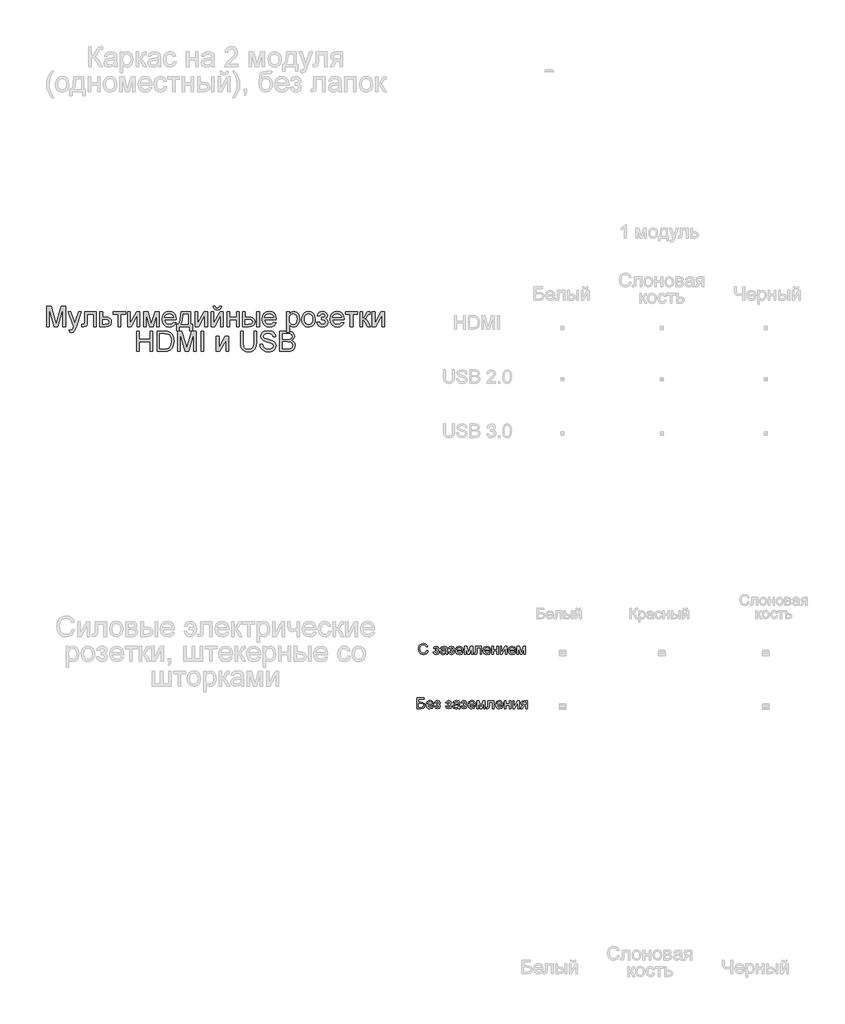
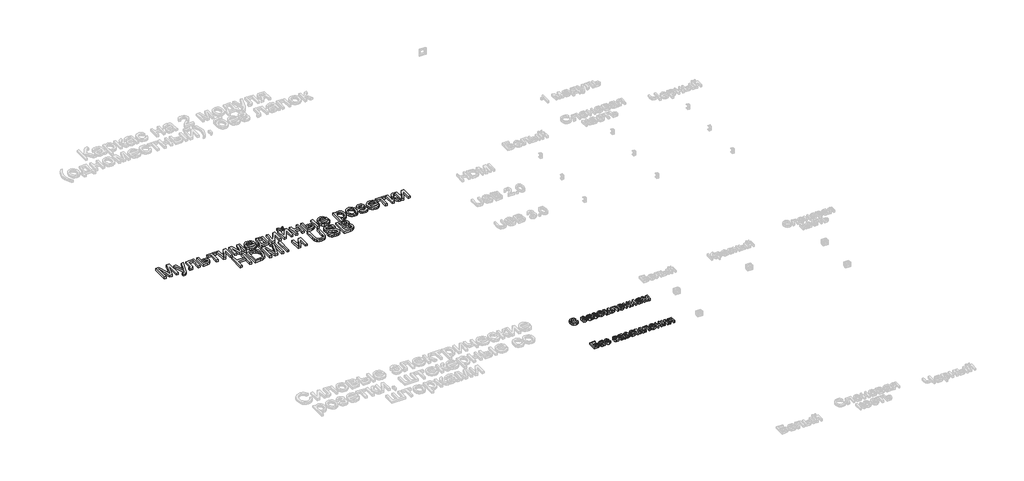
# One storey, part 12 of 47: 3 proxies.
"""IFC4 building model written with IfcOpenShell, lengths in millimetres."""

from ifc_helpers import new_model, si_unit, origin, origin_with_axes, place, context, project, spatial, polyline, outline, extrude, element, save

model = new_model("IFC4")

# Units and contexts
model_context = context("Model", 3, world=origin())
ifc_project = project(units=[si_unit("LENGTHUNIT", "METRE", prefix="MILLI")], contexts=[model_context])

# Site, building, storey
site = spatial("IfcSite", under=ifc_project)
building = spatial("IfcBuilding", under=site)
storey = spatial("IfcBuildingStorey", under=building, Name="Этаж 01", Elevation=0.0)

# Proxies
placement = place(None, origin())
element("IfcBuildingElementProxy", 1, Name="150 мм Arial", ObjectType="150 мм Arial", at=placement, inside=storey, context=model_context, shape_type="SweptSolid", body=[
    extrude(outline(polyline([(-3703.6903776, -8357.1798997), (-3703.6903776, -8206.4954345), (-3671.2799738, -8206.4954345), (-3640.4514626, -8312.7029665), (-3634.2342569, -8334.8862508), (-3627.5020164, -8310.8635565), (-3597.18854, -8206.4954345), (-3564.7781362, -8206.4954345), (-3564.7781362, -8357.1798997), (-3583.6136944, -8357.1798997), (-3583.6136944, -8225.3309926), (-3621.4687517, -8357.1798997), (-3646.9997621, -8357.1798997), (-3684.8548195, -8225.3309926), (-3684.8548195, -8357.1798997), (-3703.6903776, -8357.1798997)])), origin_with_axes(), (0.0, 0.0, 1.0), 20.0),
    extrude(outline(polyline([(-3534.1703542, -8399.5599056), (-3536.524799, -8381.4233232), (-3526.9598671, -8383.0787922), (-3518.0203346, -8381.0002589), (-3512.5388929, -8375.2061175), (-3507.388545, -8361.3369663), (-3505.917017, -8356.7752295), (-3545.9425781, -8246.5209956), (-3526.0769503, -8246.5209956), (-3504.8501592, -8307.9572888), (-3497.4557311, -8332.531806), (-3490.061303, -8310.8267683), (-3468.2459007, -8246.5209956), (-3448.5274258, -8246.5209956), (-3487.0446706, -8359.8286501), (-3497.0510609, -8384.4031674), (-3507.9771562, -8397.6837074), (-3522.6556478, -8401.9143503), (-3534.1703542, -8399.5599056)])), origin_with_axes(), (0.0, 0.0, 1.0), 20.0),
    extrude(outline(polyline([(-3423.5114501, -8246.5209956), (-3338.7514384, -8246.5209956), (-3338.7514384, -8357.0695351), (-3357.5869965, -8357.0695351), (-3357.5869965, -8265.3565537), (-3404.6758919, -8265.3565537), (-3404.6758919, -8318.14762), (-3405.9450848, -8342.5014081), (-3412.9164486, -8352.7837099), (-3429.397562, -8357.1798997), (-3444.701453, -8356.2234065), (-3444.701453, -8338.3443416), (-3436.2769553, -8338.3443416), (-3427.7604871, -8337.1855133), (-3424.3575787, -8333.5066933), (-3423.5114501, -8317.0807622), (-3423.5114501, -8246.5209956)])), origin_with_axes(), (0.0, 0.0, 1.0), 20.0),
    extrude(outline(polyline([(-3310.4981012, -8246.5209956), (-3291.662543, -8246.5209956), (-3291.662543, -8286.5465566), (-3269.9575053, -8286.5465566), (-3251.1403412, -8288.9055999), (-3237.2160077, -8295.9827298), (-3228.607569, -8307.2077292), (-3225.7380895, -8322.010381), (-3228.1799062, -8335.4886576), (-3235.5053564, -8346.8608098), (-3248.2018838, -8354.6001272), (-3266.7569319, -8357.1798997), (-3310.4981012, -8357.1798997), (-3310.4981012, -8246.5209956)]), holes=[polyline([(-3291.662543, -8338.3443416), (-3274.0777836, -8338.3443416), (-3251.3610704, -8334.3896101), (-3246.2705033, -8329.3266342), (-3244.5736476, -8322.0471692), (-3249.5952369, -8310.4588863), (-3257.6656481, -8306.6513077), (-3271.8337035, -8305.3821148), (-3291.662543, -8305.3821148), (-3291.662543, -8338.3443416)])]), origin_with_axes(), (0.0, 0.0, 1.0), 20.0),
    extrude(outline(polyline([(-3211.6114209, -8246.5209956), (-3122.1425196, -8246.5209956), (-3122.1425196, -8265.3565537), (-3157.4591912, -8265.3565537), (-3157.4591912, -8357.1798997), (-3176.2947493, -8357.1798997), (-3176.2947493, -8265.3565537), (-3211.6114209, -8265.3565537), (-3211.6114209, -8246.5209956)])), origin_with_axes(), (0.0, 0.0, 1.0), 20.0),
    extrude(outline(polyline([(-3105.6614062, -8246.5209956), (-3086.8258481, -8246.5209956), (-3086.8258481, -8330.9131253), (-3040.5462931, -8246.5209956), (-3016.192505, -8246.5209956), (-3016.192505, -8357.1798997), (-3035.0280632, -8357.1798997), (-3035.0280632, -8273.3028048), (-3081.0133126, -8357.1798997), (-3105.6614062, -8357.1798997), (-3105.6614062, -8246.5209956)])), origin_with_axes(), (0.0, 0.0, 1.0), 20.0),
    extrude(outline(polyline([(-2987.9391678, -8246.5209956), (-2955.528764, -8246.5209956), (-2930.5495765, -8335.10698), (-2903.6206145, -8246.5209956), (-2872.5713741, -8246.5209956), (-2872.5713741, -8357.1798997), (-2891.4069323, -8357.1798997), (-2891.4069323, -8268.0788805), (-2918.4830471, -8357.1798997), (-2943.2047172, -8357.1798997), (-2969.1036096, -8263.8114493), (-2969.1036096, -8357.1798997), (-2987.9391678, -8357.1798997), (-2987.9391678, -8246.5209956)])), origin_with_axes(), (0.0, 0.0, 1.0), 20.0),
    extrude(outline(polyline([(-2766.8420887, -8324.2176729), (-2748.3744125, -8326.5721177), (-2755.0284781, -8340.4872542), (-2765.6464722, -8350.8891176), (-2779.9892715, -8357.3730378), (-2797.8177527, -8359.5343445), (-2819.9182635, -8355.8049408), (-2836.9236088, -8344.6167296), (-2847.7669306, -8326.6962779), (-2851.3813712, -8302.7701526), (-2847.7301424, -8278.0392855), (-2836.776456, -8259.5440182), (-2820.001037, -8248.0109176), (-2798.8846105, -8244.1665508), (-2778.425773, -8248.0017206), (-2762.0780169, -8259.50723), (-2751.3588552, -8277.9657091), (-2747.7858013, -8302.659788), (-2747.8961659, -8307.7365596), (-2832.545813, -8307.7365596), (-2829.2854588, -8321.835637), (-2821.7116883, -8332.2007122), (-2810.7809945, -8338.5742678), (-2797.4498707, -8340.6987863), (-2778.9821945, -8336.762449), (-2766.8420887, -8324.2176729)]), holes=[polyline([(-2832.545813, -8288.9010014), (-2766.6213595, -8288.9010014), (-2769.1689423, -8278.9497934), (-2774.1629404, -8271.8312768), (-2785.1442179, -8265.2094009), (-2798.9581869, -8263.002109), (-2811.6547142, -8264.763344), (-2822.1531467, -8270.0470492), (-2829.4510057, -8278.2830073), (-2832.545813, -8288.9010014)])]), origin_with_axes(), (0.0, 0.0, 1.0), 20.0),
    extrude(outline(polyline([(-2712.4691298, -8246.5209956), (-2641.8357867, -8246.5209956), (-2641.8357867, -8338.3443416), (-2627.7091181, -8338.3443416), (-2627.7091181, -8387.7876817), (-2646.5446763, -8387.7876817), (-2646.5446763, -8357.1798997), (-2724.2413536, -8357.1798997), (-2724.2413536, -8387.7876817), (-2743.0769118, -8387.7876817), (-2743.0769118, -8338.3443416), (-2731.304688, -8338.3443416), (-2722.746833, -8322.8795022), (-2716.754955, -8302.4206647), (-2712.4691298, -8246.5209956)]), holes=[polyline([(-2695.9880164, -8265.3565537), (-2700.4026004, -8308.2699885), (-2710.114685, -8338.3443416), (-2660.6713449, -8338.3443416), (-2660.6713449, -8265.3565537), (-2695.9880164, -8265.3565537)])]), origin_with_axes(), (0.0, 0.0, 1.0), 20.0),
    extrude(outline(polyline([(-2606.5191152, -8246.5209956), (-2587.683557, -8246.5209956), (-2587.683557, -8330.9131253), (-2541.404002, -8246.5209956), (-2517.050214, -8246.5209956), (-2517.050214, -8357.1798997), (-2535.8857721, -8357.1798997), (-2535.8857721, -8273.3028048), (-2581.8710215, -8357.1798997), (-2606.5191152, -8357.1798997), (-2606.5191152, -8246.5209956)])), origin_with_axes(), (0.0, 0.0, 1.0), 20.0),
    extrude(outline(polyline([(-2488.7968767, -8246.5209956), (-2469.9613186, -8246.5209956), (-2469.9613186, -8330.9131253), (-2423.6817636, -8246.5209956), (-2399.3279755, -8246.5209956), (-2399.3279755, -8357.1798997), (-2418.1635337, -8357.1798997), (-2418.1635337, -8273.3028048), (-2464.1487831, -8357.1798997), (-2488.7968767, -8357.1798997), (-2488.7968767, -8246.5209956)])), origin_with_axes(), (0.0, 0.0, 1.0), 20.0),
    extrude(outline(polyline([(-2427.5813127, -8206.4954345), (-2413.4546441, -8206.4954345), (-2416.4942691, -8218.5573654), (-2422.5965117, -8227.4463141), (-2431.4854604, -8232.9231573), (-2442.8852037, -8234.7487717), (-2455.2552358, -8232.9369529), (-2464.8477588, -8227.5014964), (-2471.4052554, -8218.6263433), (-2474.6702081, -8206.4954345), (-2460.5435395, -8206.4954345), (-2455.2460388, -8217.1088301), (-2444.5774609, -8220.6221031), (-2432.8788135, -8217.2191947), (-2427.5813127, -8206.4954345)])), origin_with_axes(), (0.0, 0.0, 1.0), 20.0),
    extrude(outline(polyline([(-2371.0746383, -8246.5209956), (-2352.2390801, -8246.5209956), (-2352.2390801, -8288.9010014), (-2302.79574, -8288.9010014), (-2302.79574, -8246.5209956), (-2283.9601818, -8246.5209956), (-2283.9601818, -8357.1798997), (-2302.79574, -8357.1798997), (-2302.79574, -8307.7365596), (-2352.2390801, -8307.7365596), (-2352.2390801, -8357.1798997), (-2371.0746383, -8357.1798997), (-2371.0746383, -8246.5209956)])), origin_with_axes(), (0.0, 0.0, 1.0), 20.0),
    extrude(outline(polyline([(-2152.1112747, -8246.5209956), (-2133.2757166, -8246.5209956), (-2133.2757166, -8357.1798997), (-2152.1112747, -8357.1798997), (-2152.1112747, -8246.5209956)])), origin_with_axes(), (0.0, 0.0, 1.0), 20.0),
    extrude(outline(polyline([(-2255.7068446, -8246.5209956), (-2236.8712864, -8246.5209956), (-2236.8712864, -8286.5465566), (-2213.5843561, -8286.5465566), (-2193.4566125, -8288.9055999), (-2178.5435961, -8295.9827298), (-2169.3143565, -8307.2077292), (-2166.2379434, -8322.010381), (-2168.8177159, -8335.4886576), (-2176.5570333, -8346.8608098), (-2189.9617335, -8354.6001272), (-2209.5376542, -8357.1798997), (-2255.7068446, -8357.1798997), (-2255.7068446, -8246.5209956)]), holes=[polyline([(-2236.8712864, -8338.3443416), (-2217.5206935, -8338.3443416), (-2192.541506, -8334.3896101), (-2186.9405026, -8329.3266342), (-2185.0735015, -8322.0471692), (-2190.6101255, -8310.4588863), (-2199.4898772, -8306.6513077), (-2215.0558841, -8305.3821148), (-2236.8712864, -8305.3821148), (-2236.8712864, -8338.3443416)])]), origin_with_axes(), (0.0, 0.0, 1.0), 20.0),
    extrude(outline(polyline([(-2027.5464312, -8324.2176729), (-2009.078755, -8326.5721177), (-2015.7328206, -8340.4872542), (-2026.3508147, -8350.8891176), (-2040.693614, -8357.3730378), (-2058.5220952, -8359.5343445), (-2080.622606, -8355.8049408), (-2097.6279513, -8344.6167296), (-2108.4712731, -8326.6962779), (-2112.0857137, -8302.7701526), (-2108.4344849, -8278.0392855), (-2097.4807985, -8259.5440182), (-2080.7053795, -8248.0109176), (-2059.588953, -8244.1665508), (-2039.1301155, -8248.0017206), (-2022.7823593, -8259.50723), (-2012.0631977, -8277.9657091), (-2008.4901438, -8302.659788), (-2008.6005084, -8307.7365596), (-2093.2501555, -8307.7365596), (-2089.9898013, -8321.835637), (-2082.4160308, -8332.2007122), (-2071.485337, -8338.5742678), (-2058.1542132, -8340.6987863), (-2039.686537, -8336.762449), (-2027.5464312, -8324.2176729)]), holes=[polyline([(-2093.2501555, -8288.9010014), (-2027.325702, -8288.9010014), (-2029.8732848, -8278.9497934), (-2034.8672829, -8271.8312768), (-2045.8485604, -8265.2094009), (-2059.6625294, -8263.002109), (-2072.3590567, -8264.763344), (-2082.8574892, -8270.0470492), (-2090.1553482, -8278.2830073), (-2093.2501555, -8288.9010014)])]), origin_with_axes(), (0.0, 0.0, 1.0), 20.0),
    extrude(outline(polyline([(-1930.7934664, -8399.5599056), (-1930.7934664, -8246.5209956), (-1911.9579083, -8246.5209956), (-1911.9579083, -8264.9886717), (-1898.9348857, -8249.372081), (-1881.3501263, -8244.1665508), (-1868.6122122, -8245.9875667), (-1857.4745848, -8251.4506143), (-1848.4062936, -8260.2245999), (-1841.8763882, -8271.9784296), (-1836.6156757, -8301.0043191), (-1838.1009992, -8317.1129519), (-1842.5569699, -8331.5201306), (-1849.8410334, -8343.4946895), (-1859.8106355, -8352.3054633), (-1871.421911, -8357.7271242), (-1883.6309947, -8359.5343445), (-1900.0201376, -8354.6966962), (-1911.9579083, -8342.4646199), (-1911.9579083, -8399.5599056), (-1930.7934664, -8399.5599056)]), holes=[polyline([(-1911.9579083, -8302.7333644), (-1909.9207617, -8319.619148), (-1903.8093221, -8331.4281601), (-1894.7916147, -8338.3811298), (-1884.0356649, -8340.6987863), (-1873.1049711, -8338.2983563), (-1863.8573374, -8331.0970663), (-1857.5527597, -8318.8557929), (-1855.4512338, -8301.3354128), (-1857.502176, -8284.5415998), (-1863.6550023, -8272.5670408), (-1872.6589142, -8265.3933419), (-1883.2631127, -8263.002109), (-1893.9086979, -8265.5450932), (-1903.2574991, -8273.1740461), (-1909.782806, -8285.6498443), (-1911.9579083, -8302.7333644)])]), origin_with_axes(), (0.0, 0.0, 1.0), 20.0),
    extrude(outline(polyline([(-1820.1345623, -8301.8504476), (-1816.0602692, -8275.1698059), (-1803.8373899, -8256.4170212), (-1788.735834, -8247.2291684), (-1770.6544339, -8244.1665508), (-1750.8669811, -8247.8959545), (-1735.0618509, -8259.0841657), (-1724.7013742, -8276.8482675), (-1721.247882, -8300.3053433), (-1722.7745923, -8319.3340395), (-1727.3547231, -8333.819393), (-1734.8549173, -8344.6673134), (-1745.1418176, -8352.7837099), (-1757.3600983, -8357.8466858), (-1770.6544339, -8359.5343445), (-1790.6810101, -8355.8187363), (-1806.4677462, -8344.6719119), (-1816.7178583, -8326.5353295), (-1820.1345623, -8301.8504476)]), holes=[polyline([(-1801.2990041, -8301.8136594), (-1799.1193033, -8318.8603914), (-1792.5802009, -8331.0050958), (-1782.7393575, -8338.2753637), (-1770.6544339, -8340.6987863), (-1758.6246927, -8338.2615681), (-1748.8022434, -8330.9499135), (-1742.263141, -8318.6442607), (-1740.0834402, -8301.2250482), (-1742.2769365, -8284.674957), (-1748.8574257, -8272.6957995), (-1758.6936706, -8265.4255316), (-1770.6544339, -8263.002109), (-1782.7393575, -8265.4163345), (-1792.5802009, -8272.6590113), (-1799.1193033, -8284.7761245), (-1801.2990041, -8301.8136594)])]), origin_with_axes(), (0.0, 0.0, 1.0), 20.0),
    extrude(outline(polyline([(-1674.1589866, -8307.7365596), (-1674.1589866, -8288.9010014), (-1659.296554, -8288.1652374), (-1651.7917613, -8284.2472942), (-1648.2600942, -8276.0619198), (-1652.9873778, -8266.5521702), (-1665.1826659, -8263.002109), (-1677.7826243, -8266.5337761), (-1685.9312105, -8277.1287776), (-1707.1212134, -8274.7743328), (-1701.5018159, -8261.3834282), (-1692.9577566, -8251.8184963), (-1681.4890354, -8246.0795372), (-1667.0956523, -8244.1665508), (-1651.3503029, -8246.4980029), (-1639.4309263, -8253.4923594), (-1631.9261336, -8263.7240774), (-1629.424536, -8275.7676142), (-1632.9837943, -8287.4662616), (-1643.6615692, -8296.5161587), (-1631.2087637, -8308.2515944), (-1627.0700912, -8325.1373779), (-1629.695849, -8339.0019306), (-1637.5731222, -8349.9878067), (-1650.168482, -8357.14771), (-1666.9484995, -8359.5343445), (-1683.360635, -8357.3270525), (-1695.9192066, -8350.7051766), (-1704.6242143, -8339.6687167), (-1709.4756582, -8324.2176729), (-1688.2856552, -8321.8632282), (-1679.7875811, -8335.7691676), (-1665.1458777, -8340.6987863), (-1651.3870911, -8335.9715027), (-1645.9056494, -8323.8865792), (-1649.3085578, -8313.9905535), (-1656.5558331, -8308.6930528), (-1670.4801667, -8307.626195), (-1674.1589866, -8307.7365596)])), origin_with_axes(), (0.0, 0.0, 1.0), 20.0),
    extrude(outline(polyline([(-1526.0496954, -8324.2176729), (-1507.5820192, -8326.5721177), (-1514.2360848, -8340.4872542), (-1524.8540789, -8350.8891176), (-1539.1968782, -8357.3730378), (-1557.0253594, -8359.5343445), (-1579.1258702, -8355.8049408), (-1596.1312154, -8344.6167296), (-1606.9745372, -8326.6962779), (-1610.5889778, -8302.7701526), (-1606.937749, -8278.0392855), (-1595.9840626, -8259.5440182), (-1579.2086437, -8248.0109176), (-1558.0922171, -8244.1665508), (-1537.6333797, -8248.0017206), (-1521.2856235, -8259.50723), (-1510.5664619, -8277.9657091), (-1506.993408, -8302.659788), (-1507.1037726, -8307.7365596), (-1591.7534197, -8307.7365596), (-1588.4930655, -8321.835637), (-1580.9192949, -8332.2007122), (-1569.9886012, -8338.5742678), (-1556.6574774, -8340.6987863), (-1538.1898012, -8336.762449), (-1526.0496954, -8324.2176729)]), holes=[polyline([(-1591.7534197, -8288.9010014), (-1525.8289662, -8288.9010014), (-1528.376549, -8278.9497934), (-1533.3705471, -8271.8312768), (-1544.3518246, -8265.2094009), (-1558.1657935, -8263.002109), (-1570.8623209, -8264.763344), (-1581.3607533, -8270.0470492), (-1588.6586124, -8278.2830073), (-1591.7534197, -8288.9010014)])]), origin_with_axes(), (0.0, 0.0, 1.0), 20.0),
    extrude(outline(polyline([(-1497.5756289, -8246.5209956), (-1408.1067277, -8246.5209956), (-1408.1067277, -8265.3565537), (-1443.4233992, -8265.3565537), (-1443.4233992, -8357.1798997), (-1462.2589574, -8357.1798997), (-1462.2589574, -8265.3565537), (-1497.5756289, -8265.3565537), (-1497.5756289, -8246.5209956)])), origin_with_axes(), (0.0, 0.0, 1.0), 20.0),
    extrude(outline(polyline([(-1391.6256143, -8246.5209956), (-1372.7900562, -8246.5209956), (-1372.7900562, -8293.6098909), (-1360.1717037, -8290.2253766), (-1349.8342197, -8270.5069017), (-1341.2441751, -8253.4923594), (-1333.665806, -8247.9557353), (-1319.8886253, -8246.5209956), (-1316.2833817, -8246.5209956), (-1316.2833817, -8265.4669183), (-1321.3601532, -8265.3565537), (-1330.5572031, -8267.3431165), (-1337.0319262, -8279.7407397), (-1344.6286894, -8293.1500385), (-1355.2788732, -8299.7167321), (-1343.3962848, -8307.0467808), (-1331.7344255, -8322.4886276), (-1311.5744922, -8357.1798997), (-1332.9852243, -8357.1798997), (-1352.7404874, -8323.2243916), (-1362.6733013, -8308.8585996), (-1372.7900562, -8305.3821148), (-1372.7900562, -8357.1798997), (-1391.6256143, -8357.1798997), (-1391.6256143, -8246.5209956)])), origin_with_axes(), (0.0, 0.0, 1.0), 20.0),
    extrude(outline(polyline([(-1299.8022683, -8246.5209956), (-1280.9667102, -8246.5209956), (-1280.9667102, -8330.9131253), (-1234.6871552, -8246.5209956), (-1210.3333671, -8246.5209956), (-1210.3333671, -8357.1798997), (-1229.1689252, -8357.1798997), (-1229.1689252, -8273.3028048), (-1275.1541746, -8357.1798997), (-1299.8022683, -8357.1798997), (-1299.8022683, -8246.5209956)])), origin_with_axes(), (0.0, 0.0, 1.0), 20.0),
    extrude(outline(polyline([(-3039.7369527, -8540.1421265), (-3039.7369527, -8389.4576613), (-3020.9013946, -8389.4576613), (-3020.9013946, -8450.6732253), (-2940.8502724, -8450.6732253), (-2940.8502724, -8389.4576613), (-2922.0147143, -8389.4576613), (-2922.0147143, -8540.1421265), (-2940.8502724, -8540.1421265), (-2940.8502724, -8469.5087834), (-3020.9013946, -8469.5087834), (-3020.9013946, -8540.1421265), (-3039.7369527, -8540.1421265)])), origin_with_axes(), (0.0, 0.0, 1.0), 20.0),
    extrude(outline(polyline([(-2889.0524875, -8540.1421265), (-2889.0524875, -8389.4576613), (-2837.0707616, -8389.4576613), (-2810.1785877, -8391.628165), (-2788.0320916, -8402.4071075), (-2777.6118341, -8413.8850257), (-2770.1898148, -8428.1588472), (-2765.7476398, -8444.9526602), (-2764.2669147, -8463.9905535), (-2768.2768285, -8494.3960004), (-2778.5775243, -8516.3401614), (-2792.336311, -8530.0069775), (-2810.3441346, -8537.5669525), (-2834.569164, -8540.1421265), (-2889.0524875, -8540.1421265)]), holes=[polyline([(-2870.2169293, -8521.3065683), (-2836.8868206, -8521.3065683), (-2812.6433971, -8518.5842416), (-2798.6638813, -8510.8955079), (-2787.2043571, -8492.1887084), (-2783.1024729, -8463.6962479), (-2785.1120283, -8443.1684326), (-2791.1406945, -8428.0116944), (-2800.0480373, -8417.6006339), (-2810.6936225, -8411.3098518), (-2837.4018554, -8408.2932194), (-2870.2169293, -8408.2932194), (-2870.2169293, -8521.3065683)])]), origin_with_axes(), (0.0, 0.0, 1.0), 20.0),
    extrude(outline(polyline([(-2738.3680223, -8540.1421265), (-2738.3680223, -8389.4576613), (-2705.9576185, -8389.4576613), (-2675.1291073, -8495.6651933), (-2668.9119016, -8517.8484776), (-2662.1796611, -8493.8257833), (-2631.8661847, -8389.4576613), (-2599.4557809, -8389.4576613), (-2599.4557809, -8540.1421265), (-2618.291339, -8540.1421265), (-2618.291339, -8408.2932194), (-2656.1463963, -8540.1421265), (-2681.6774068, -8540.1421265), (-2719.5324641, -8408.2932194), (-2719.5324641, -8540.1421265), (-2738.3680223, -8540.1421265)])), origin_with_axes(), (0.0, 0.0, 1.0), 20.0),
    extrude(outline(polyline([(-2564.1391093, -8540.1421265), (-2564.1391093, -8389.4576613), (-2545.3035512, -8389.4576613), (-2545.3035512, -8540.1421265), (-2564.1391093, -8540.1421265)])), origin_with_axes(), (0.0, 0.0, 1.0), 20.0),
    extrude(outline(polyline([(-2451.1257604, -8429.4832223), (-2432.2902023, -8429.4832223), (-2432.2902023, -8513.875352), (-2386.0106473, -8429.4832223), (-2361.6568592, -8429.4832223), (-2361.6568592, -8540.1421265), (-2380.4924174, -8540.1421265), (-2380.4924174, -8456.2650316), (-2426.4776668, -8540.1421265), (-2451.1257604, -8540.1421265), (-2451.1257604, -8429.4832223)])), origin_with_axes(), (0.0, 0.0, 1.0), 20.0),
    extrude(outline(polyline([(-2173.3012777, -8389.4576613), (-2154.4657195, -8389.4576613), (-2154.4657195, -8476.3881767), (-2155.7441095, -8496.7458466), (-2159.5792793, -8512.4222181), (-2166.7437811, -8524.5163387), (-2178.0101672, -8534.1272559), (-2193.4060287, -8540.4042424), (-2212.9589568, -8542.4965713), (-2232.084222, -8540.6755554), (-2247.3743174, -8535.2125077), (-2258.8338415, -8526.2959679), (-2266.4673929, -8514.1144753), (-2270.7578167, -8497.7759162), (-2272.187958, -8476.3881767), (-2272.187958, -8389.4576613), (-2253.3523998, -8389.4576613), (-2253.3523998, -8475.7259891), (-2249.6367917, -8504.4391789), (-2244.5876113, -8512.6015606), (-2236.8712864, -8518.657818), (-2214.7247903, -8523.6610131), (-2195.5673354, -8521.1870067), (-2182.8294213, -8513.7649874), (-2175.6833136, -8499.307225), (-2173.3012777, -8475.7259891), (-2173.3012777, -8389.4576613)])), origin_with_axes(), (0.0, 0.0, 1.0), 20.0),
    extrude(outline(polyline([(-2128.5668271, -8488.3443416), (-2109.7312689, -8488.3443416), (-2103.661216, -8507.1982938), (-2088.8355716, -8519.1176705), (-2066.2476171, -8523.6610131), (-2046.5659303, -8520.2213164), (-2033.8556074, -8510.7667492), (-2029.6801468, -8498.1300026), (-2032.8071437, -8486.3761729), (-2045.6094371, -8477.8229165), (-2073.0350399, -8470.6308235), (-2102.55757, -8461.3418031), (-2118.5788309, -8447.3254991), (-2123.8579375, -8428.6003055), (-2122.2254612, -8417.5684442), (-2117.3280321, -8407.2815439), (-2109.294409, -8398.5627406), (-2098.2533507, -8392.2351703), (-2070.3311072, -8387.1032165), (-2040.5326656, -8392.4742936), (-2029.1099297, -8399.1053666), (-2020.6670379, -8408.2564312), (-2015.3235519, -8419.3572704), (-2013.1990334, -8431.8376671), (-2032.0345915, -8431.8376671), (-2035.4926823, -8420.5988722), (-2042.7031694, -8412.4870742), (-2053.9695555, -8407.5758495), (-2069.5953432, -8405.9387746), (-2085.589013, -8407.5574554), (-2096.5610935, -8412.4134978), (-2102.9070579, -8419.5596055), (-2105.0223794, -8428.0484826), (-2103.5232602, -8435.2865608), (-2099.0259028, -8441.1082934), (-2068.270968, -8451.6297184), (-2034.9408593, -8461.0842857), (-2024.2033036, -8467.9176938), (-2016.7123064, -8476.3513885), (-2012.3115181, -8486.2933994), (-2010.8445886, -8497.651756), (-2012.5322473, -8509.2630315), (-2017.5952232, -8520.1845282), (-2025.8265829, -8529.5839132), (-2037.0193926, -8536.6288534), (-2050.4792751, -8541.0296418), (-2065.5118531, -8542.4965713), (-2083.9657337, -8540.9146787), (-2099.1546615, -8536.1690009), (-2111.2533807, -8528.2411439), (-2120.436635, -8517.1127136), (-2126.3319439, -8503.5562621), (-2128.5668271, -8488.3443416)])), origin_with_axes(), (0.0, 0.0, 1.0), 20.0),
    extrude(outline(polyline([(-1982.5912514, -8540.1421265), (-1982.5912514, -8389.4576613), (-1925.0912955, -8389.4576613), (-1896.9299288, -8393.8906393), (-1887.4661645, -8399.5146353), (-1880.3016626, -8407.5206672), (-1874.286792, -8426.7976838), (-1879.3451694, -8444.4008372), (-1894.6306663, -8457.7365596), (-1883.9574899, -8463.3099718), (-1876.0710197, -8471.7896518), (-1871.2011818, -8482.6145795), (-1869.5779025, -8495.2237349), (-1874.0108805, -8515.4756387), (-1884.9921581, -8529.8966129), (-1901.3813009, -8537.5485584), (-1925.5327539, -8540.1421265), (-1982.5912514, -8540.1421265)]), holes=[polyline([(-1963.7556932, -8450.6732253), (-1929.3587267, -8450.6732253), (-1909.2723697, -8449.0545445), (-1897.1874462, -8442.0831807), (-1893.1223501, -8429.8143161), (-1896.9115347, -8417.5270575), (-1907.7640536, -8410.2613881), (-1931.9706888, -8408.2932194), (-1963.7556932, -8408.2932194), (-1963.7556932, -8450.6732253)]), polyline([(-1963.7556932, -8521.3065683), (-1925.1280837, -8521.3065683), (-1911.1485679, -8520.5708043), (-1899.3211618, -8516.4689201), (-1891.4852753, -8508.0996047), (-1888.4134606, -8495.4076759), (-1892.0187042, -8480.7659725), (-1903.6989575, -8472.0287751), (-1926.9674937, -8469.5087834), (-1963.7556932, -8469.5087834), (-1963.7556932, -8521.3065683)])]), origin_with_axes(), (0.0, 0.0, 1.0), 20.0),
])
element("IfcBuildingElementProxy", 2, Name="80 мм Arial", ObjectType="80 мм Arial", at=placement, inside=storey, context=model_context, shape_type="SweptSolid", body=[
    extrude(outline(polyline([(-899.2082257, -10747.1887928), (-889.1625946, -10749.778682), (-893.7979078, -10761.4846871), (-901.0721611, -10770.0367172), (-910.6272828, -10775.2679992), (-922.105201, -10777.0117598), (-943.0107085, -10771.7338795), (-955.2734417, -10756.4496088), (-959.4820117, -10734.9653003), (-954.7240713, -10713.1278251), (-941.195824, -10698.9717259), (-921.8893769, -10694.135304), (-910.87499, -10695.7000287), (-901.7686843, -10700.394203), (-894.8549554, -10707.9284262), (-890.4182985, -10718.013298), (-900.4639295, -10720.4069835), (-908.7044862, -10708.0559587), (-922.2817844, -10704.180935), (-937.9977032, -10708.4777967), (-946.875922, -10720.014576), (-949.4363807, -10734.94568), (-946.4050331, -10752.250849), (-936.9676336, -10763.3069292), (-923.1058401, -10766.9661288), (-907.7332778, -10761.9825541), (-899.2082257, -10747.1887928)])), origin_with_axes(), (0.0, 0.0, 1.0), 20.0),
    extrude(outline(polyline([(-831.4002163, -10749.3862745), (-831.4002163, -10739.3406435), (-823.4735856, -10738.9482361), (-819.4710295, -10736.8586663), (-817.5874737, -10732.4931333), (-820.1086916, -10727.4212669), (-826.6128453, -10725.5279009), (-833.3328231, -10727.4114567), (-837.6787357, -10733.0621241), (-848.9800706, -10731.8064203), (-841.4262269, -10719.5633075), (-827.6331047, -10715.4822699), (-812.8785841, -10720.4560344), (-807.5418426, -10732.3361703), (-809.4401137, -10738.575449), (-815.134927, -10743.4020608), (-808.4934307, -10749.6609598), (-806.2861388, -10758.666711), (-807.6865429, -10766.0611391), (-811.8877553, -10771.920273), (-827.5546232, -10777.0117598), (-843.005667, -10772.3028703), (-850.2357745, -10758.1762017), (-838.9344396, -10756.9204978), (-834.4021334, -10764.3369988), (-826.5932249, -10766.9661288), (-819.2552054, -10764.4449109), (-816.3317698, -10757.9996183), (-818.1466543, -10752.721738), (-822.0118678, -10749.8964042), (-829.438179, -10749.3274134), (-831.4002163, -10749.3862745)])), origin_with_axes(), (0.0, 0.0, 1.0), 20.0),
    extrude(outline(polyline([(-756.0579837, -10768.2218327), (-765.7994989, -10775.0301021), (-776.5612736, -10777.0117598), (-791.1490209, -10772.2440092), (-796.2405078, -10760.0597575), (-794.3177112, -10752.1135064), (-789.2654651, -10746.3451167), (-782.2315614, -10743.048894), (-773.5397361, -10741.5381253), (-756.1168448, -10738.0849396), (-756.0579837, -10735.8482171), (-758.8244563, -10728.4317161), (-769.9295875, -10725.5279009), (-780.0929407, -10727.4605076), (-784.9391729, -10734.317828), (-794.9848039, -10733.0621241), (-790.6388912, -10723.2519376), (-781.8882048, -10717.5031683), (-768.6346428, -10715.4822699), (-756.4602013, -10717.2677238), (-749.5832606, -10721.7509791), (-746.502862, -10728.5690587), (-746.0123527, -10737.3589858), (-746.0123527, -10749.8571635), (-745.502223, -10767.3094853), (-743.5009449, -10775.756056), (-753.5465759, -10775.756056), (-756.0579837, -10768.2218327)]), holes=[polyline([(-756.0579837, -10748.1305707), (-772.2644119, -10751.2109692), (-780.9071862, -10752.8394602), (-784.8214506, -10755.4882106), (-786.1948767, -10759.3534241), (-783.2027698, -10764.7882674), (-774.4226529, -10766.9661288), (-764.2592996, -10764.5626331), (-757.706095, -10758.7451925), (-756.1168448, -10750.9755248), (-756.0579837, -10748.1305707)])]), origin_with_axes(), (0.0, 0.0, 1.0), 20.0),
    extrude(outline(polyline([(-718.3868674, -10749.3862745), (-718.3868674, -10739.3406435), (-710.4602367, -10738.9482361), (-706.4576806, -10736.8586663), (-704.5741247, -10732.4931333), (-707.0953427, -10727.4212669), (-713.5994964, -10725.5279009), (-720.3194741, -10727.4114567), (-724.6653868, -10733.0621241), (-735.9667217, -10731.8064203), (-728.412878, -10719.5633075), (-714.6197558, -10715.4822699), (-699.8652352, -10720.4560344), (-694.5284937, -10732.3361703), (-696.4267648, -10738.575449), (-702.1215781, -10743.4020608), (-695.4800818, -10749.6609598), (-693.2727898, -10758.666711), (-694.673194, -10766.0611391), (-698.8744064, -10771.920273), (-714.5412743, -10777.0117598), (-729.9923181, -10772.3028703), (-737.2224255, -10758.1762017), (-725.9210906, -10756.9204978), (-721.3887845, -10764.3369988), (-713.579876, -10766.9661288), (-706.2418564, -10764.4449109), (-703.3184209, -10757.9996183), (-705.1333054, -10752.721738), (-708.9985189, -10749.8964042), (-716.4248301, -10749.3274134), (-718.3868674, -10749.3862745)])), origin_with_axes(), (0.0, 0.0, 1.0), 20.0),
    extrude(outline(polyline([(-639.3952454, -10758.1762017), (-629.5458181, -10759.4319056), (-638.7575833, -10772.4009722), (-655.9155995, -10777.0117598), (-667.7025386, -10775.0227445), (-676.7720561, -10769.0556985), (-682.5551611, -10759.4981243), (-684.4828627, -10746.7375242), (-682.5355407, -10733.5477284), (-676.6935746, -10723.6835858), (-667.7466845, -10717.5325988), (-656.4845903, -10715.4822699), (-645.5732104, -10717.5276938), (-636.8544071, -10723.6639654), (-631.1375209, -10733.5084876), (-629.2318921, -10746.6786631), (-629.2907532, -10749.3862745), (-674.4372317, -10749.3862745), (-668.6590318, -10762.4338226), (-655.7193958, -10766.9661288), (-645.8699685, -10764.8667489), (-639.3952454, -10758.1762017)]), holes=[polyline([(-674.4372317, -10739.3406435), (-639.2775231, -10739.3406435), (-643.2996996, -10730.2367904), (-656.5238311, -10725.5279009), (-668.8944763, -10729.2852023), (-674.4372317, -10739.3406435)])]), origin_with_axes(), (0.0, 0.0, 1.0), 20.0),
    extrude(outline(polyline([(-619.1862611, -10716.7379737), (-601.9007124, -10716.7379737), (-588.5784791, -10763.9838321), (-574.216366, -10716.7379737), (-557.6567711, -10716.7379737), (-557.6567711, -10775.756056), (-567.7024022, -10775.756056), (-567.7024022, -10728.2355124), (-582.1429967, -10775.756056), (-595.3278875, -10775.756056), (-609.1406301, -10725.9595491), (-609.1406301, -10775.756056), (-619.1862611, -10775.756056), (-619.1862611, -10716.7379737)])), origin_with_axes(), (0.0, 0.0, 1.0), 20.0),
    extrude(outline(polyline([(-537.5655091, -10716.7379737), (-492.3601695, -10716.7379737), (-492.3601695, -10775.6971948), (-502.4058006, -10775.6971948), (-502.4058006, -10726.7836048), (-527.5198781, -10726.7836048), (-527.5198781, -10754.9388401), (-528.196781, -10767.9275271), (-531.9148417, -10773.4114214), (-540.7047688, -10775.756056), (-548.866844, -10775.2459263), (-548.866844, -10765.7104249), (-544.3737786, -10765.7104249), (-539.8316622, -10765.0923832), (-538.0167777, -10763.1303459), (-537.5655091, -10754.3698493), (-537.5655091, -10716.7379737)])), origin_with_axes(), (0.0, 0.0, 1.0), 20.0),
    extrude(outline(polyline([(-435.9712173, -10758.1762017), (-426.12179, -10759.4319056), (-435.3335552, -10772.4009722), (-452.4915715, -10777.0117598), (-464.2785106, -10775.0227445), (-473.348028, -10769.0556985), (-479.131133, -10759.4981243), (-481.0588347, -10746.7375242), (-479.1115126, -10733.5477284), (-473.2695465, -10723.6835858), (-464.3226564, -10717.5325988), (-453.0605623, -10715.4822699), (-442.1491823, -10717.5276938), (-433.430379, -10723.6639654), (-427.7134928, -10733.5084876), (-425.8078641, -10746.6786631), (-425.8667252, -10749.3862745), (-471.0132036, -10749.3862745), (-465.2350038, -10762.4338226), (-452.2953677, -10766.9661288), (-442.4459404, -10764.8667489), (-435.9712173, -10758.1762017)]), holes=[polyline([(-471.0132036, -10739.3406435), (-435.8534951, -10739.3406435), (-439.8756716, -10730.2367904), (-453.099803, -10725.5279009), (-465.4704482, -10729.2852023), (-471.0132036, -10739.3406435)])]), origin_with_axes(), (0.0, 0.0, 1.0), 20.0),
    extrude(outline(polyline([(-415.7622331, -10716.7379737), (-405.716602, -10716.7379737), (-405.716602, -10739.3406435), (-379.3468206, -10739.3406435), (-379.3468206, -10716.7379737), (-369.3011896, -10716.7379737), (-369.3011896, -10775.756056), (-379.3468206, -10775.756056), (-379.3468206, -10749.3862745), (-405.716602, -10749.3862745), (-405.716602, -10775.756056), (-415.7622331, -10775.756056), (-415.7622331, -10716.7379737)])), origin_with_axes(), (0.0, 0.0, 1.0), 20.0),
    extrude(outline(polyline([(-354.2327431, -10716.7379737), (-344.1871121, -10716.7379737), (-344.1871121, -10761.7471096), (-319.5046827, -10716.7379737), (-306.5159958, -10716.7379737), (-306.5159958, -10775.756056), (-316.5616268, -10775.756056), (-316.5616268, -10731.0216053), (-341.0870931, -10775.756056), (-354.2327431, -10775.756056), (-354.2327431, -10716.7379737)])), origin_with_axes(), (0.0, 0.0, 1.0), 20.0),
    extrude(outline(polyline([(-250.1270435, -10758.1762017), (-240.2776163, -10759.4319056), (-249.4893814, -10772.4009722), (-266.6473977, -10777.0117598), (-278.4343368, -10775.0227445), (-287.5038543, -10769.0556985), (-293.2869592, -10759.4981243), (-295.2146609, -10746.7375242), (-293.2673389, -10733.5477284), (-287.4253728, -10723.6835858), (-278.4784826, -10717.5325988), (-267.2163885, -10715.4822699), (-256.3050085, -10717.5276938), (-247.5862052, -10723.6639654), (-241.869319, -10733.5084876), (-239.9636903, -10746.6786631), (-240.0225514, -10749.3862745), (-285.1690299, -10749.3862745), (-279.39083, -10762.4338226), (-266.4511939, -10766.9661288), (-256.6017667, -10764.8667489), (-250.1270435, -10758.1762017)]), holes=[polyline([(-285.1690299, -10739.3406435), (-250.0093213, -10739.3406435), (-254.0314978, -10730.2367904), (-267.2556292, -10725.5279009), (-279.6262745, -10729.2852023), (-285.1690299, -10739.3406435)])]), origin_with_axes(), (0.0, 0.0, 1.0), 20.0),
    extrude(outline(polyline([(-229.9180593, -10716.7379737), (-212.6325106, -10716.7379737), (-199.3102773, -10763.9838321), (-184.9481642, -10716.7379737), (-168.3885693, -10716.7379737), (-168.3885693, -10775.756056), (-178.4342003, -10775.756056), (-178.4342003, -10728.2355124), (-192.8747949, -10775.756056), (-206.0596856, -10775.756056), (-219.8724283, -10725.9595491), (-219.8724283, -10775.756056), (-229.9180593, -10775.756056), (-229.9180593, -10716.7379737)])), origin_with_axes(), (0.0, 0.0, 1.0), 20.0),
])
element("IfcBuildingElementProxy", 3, Name="80 мм Arial", ObjectType="80 мм Arial", at=placement, inside=storey, context=model_context, shape_type="SweptSolid", body=[
    extrude(outline(polyline([(-969.5276428, -11095.3910078), (-919.2994877, -11095.3910078), (-919.2994877, -11105.4366388), (-959.4820117, -11105.4366388), (-959.4820117, -11129.2950125), (-940.666074, -11129.2950125), (-924.0868587, -11131.3355313), (-914.2178111, -11139.0463379), (-910.5095605, -11152.2312286), (-913.1485007, -11163.6797163), (-921.0260805, -11172.3813518), (-938.8609996, -11175.756056), (-969.5276428, -11175.756056), (-969.5276428, -11095.3910078)]), holes=[polyline([(-959.4820117, -11165.7104249), (-937.9584625, -11165.7104249), (-924.9109144, -11162.3945819), (-920.5551916, -11152.4470527), (-923.0469789, -11144.5792831), (-929.9827808, -11140.3805233), (-945.1198987, -11139.3406435), (-959.4820117, -11139.3406435), (-959.4820117, -11165.7104249)])]), origin_with_axes(), (0.0, 0.0, 1.0), 20.0),
    extrude(outline(polyline([(-856.6320161, -11158.1762017), (-846.7825888, -11159.4319056), (-855.994354, -11172.4009722), (-873.1523702, -11177.0117598), (-884.9393093, -11175.0227445), (-894.0088268, -11169.0556985), (-899.7919318, -11159.4981243), (-901.7196334, -11146.7375242), (-899.7723114, -11133.5477284), (-893.9303453, -11123.6835858), (-884.9834552, -11117.5325988), (-873.721361, -11115.4822699), (-862.8099811, -11117.5276938), (-854.0911778, -11123.6639654), (-848.3742916, -11133.5084876), (-846.4686628, -11146.6786631), (-846.5275239, -11149.3862745), (-891.6740024, -11149.3862745), (-885.8958025, -11162.4338226), (-872.9561665, -11166.9661288), (-863.1067392, -11164.8667489), (-856.6320161, -11158.1762017)]), holes=[polyline([(-891.6740024, -11139.3406435), (-856.5142938, -11139.3406435), (-860.5364703, -11130.2367904), (-873.7606018, -11125.5279009), (-886.131247, -11129.2852023), (-891.6740024, -11139.3406435)])]), origin_with_axes(), (0.0, 0.0, 1.0), 20.0),
    extrude(outline(polyline([(-822.6102892, -11149.3862745), (-822.6102892, -11139.3406435), (-814.6836584, -11138.9482361), (-810.6811023, -11136.8586663), (-808.7975465, -11132.4931333), (-811.3187645, -11127.4212669), (-817.8229181, -11125.5279009), (-824.5428959, -11127.4114567), (-828.8888085, -11133.0621241), (-840.1901434, -11131.8064203), (-832.6362998, -11119.5633075), (-818.8431775, -11115.4822699), (-804.088657, -11120.4560344), (-798.7519155, -11132.3361703), (-800.6501866, -11138.575449), (-806.3449999, -11143.4020608), (-799.7035036, -11149.6609598), (-797.4962116, -11158.666711), (-798.8966158, -11166.0611391), (-803.0978281, -11171.920273), (-818.764696, -11177.0117598), (-834.2157398, -11172.3028703), (-841.4458473, -11158.1762017), (-830.1445124, -11156.9204978), (-825.6122062, -11164.3369988), (-817.8032978, -11166.9661288), (-810.4652782, -11164.4449109), (-807.5418426, -11157.9996183), (-809.3567272, -11152.721738), (-813.2219406, -11149.8964042), (-820.6482519, -11149.3274134), (-822.6102892, -11149.3862745)])), origin_with_axes(), (0.0, 0.0, 1.0), 20.0),
    extrude(outline(polyline([(-739.7338333, -11149.3862745), (-739.7338333, -11139.3406435), (-731.8072026, -11138.9482361), (-727.8046465, -11136.8586663), (-725.9210906, -11132.4931333), (-728.4423086, -11127.4212669), (-734.9464623, -11125.5279009), (-741.66644, -11127.4114567), (-746.0123527, -11133.0621241), (-757.3136876, -11131.8064203), (-749.7598439, -11119.5633075), (-735.9667217, -11115.4822699), (-721.2122011, -11120.4560344), (-715.8754596, -11132.3361703), (-717.7737307, -11138.575449), (-723.468544, -11143.4020608), (-716.8270477, -11149.6609598), (-714.6197558, -11158.666711), (-716.0201599, -11166.0611391), (-720.2213723, -11171.920273), (-735.8882402, -11177.0117598), (-751.339284, -11172.3028703), (-758.5693914, -11158.1762017), (-747.2680566, -11156.9204978), (-742.7357504, -11164.3369988), (-734.9268419, -11166.9661288), (-727.5888224, -11164.4449109), (-724.6653868, -11157.9996183), (-726.4802713, -11152.721738), (-730.3454848, -11149.8964042), (-737.771796, -11149.3274134), (-739.7338333, -11149.3862745)])), origin_with_axes(), (0.0, 0.0, 1.0), 20.0),
    extrude(outline(polyline([(-664.3916007, -11168.2218327), (-674.1331159, -11175.0301021), (-684.8948905, -11177.0117598), (-699.4826379, -11172.2440092), (-704.5741247, -11160.0597575), (-702.6513282, -11152.1135064), (-697.5990821, -11146.3451167), (-690.5651784, -11143.048894), (-681.8733531, -11141.5381253), (-664.4504618, -11138.0849396), (-664.3916007, -11135.8482171), (-667.1580733, -11128.4317161), (-678.2632044, -11125.5279009), (-688.4265577, -11127.4605076), (-693.2727898, -11134.317828), (-703.3184209, -11133.0621241), (-698.9725082, -11123.2519376), (-690.2218218, -11117.5031683), (-676.9682598, -11115.4822699), (-664.7938183, -11117.2677238), (-657.9168776, -11121.7509791), (-654.836479, -11128.5690587), (-654.3459697, -11137.3589858), (-654.3459697, -11149.8571635), (-653.83584, -11167.3094853), (-651.8345619, -11175.756056), (-661.8801929, -11175.756056), (-664.3916007, -11168.2218327)]), holes=[polyline([(-664.3916007, -11148.1305707), (-680.5980288, -11151.2109692), (-689.2408032, -11152.8394602), (-693.1550676, -11155.4882106), (-694.5284937, -11159.3534241), (-691.5363868, -11164.7882674), (-682.7562699, -11166.9661288), (-672.5929166, -11164.5626331), (-666.039712, -11158.7451925), (-664.4504618, -11150.9755248), (-664.3916007, -11148.1305707)])]), origin_with_axes(), (0.0, 0.0, 1.0), 20.0),
    extrude(outline(polyline([(-626.7204844, -11149.3862745), (-626.7204844, -11139.3406435), (-618.7938536, -11138.9482361), (-614.7912975, -11136.8586663), (-612.9077417, -11132.4931333), (-615.4289597, -11127.4212669), (-621.9331133, -11125.5279009), (-628.6530911, -11127.4114567), (-632.9990038, -11133.0621241), (-644.3003386, -11131.8064203), (-636.746495, -11119.5633075), (-622.9533727, -11115.4822699), (-608.1988522, -11120.4560344), (-602.8621107, -11132.3361703), (-604.7603818, -11138.575449), (-610.4551951, -11143.4020608), (-603.8136988, -11149.6609598), (-601.6064068, -11158.666711), (-603.006811, -11166.0611391), (-607.2080233, -11171.920273), (-622.8748912, -11177.0117598), (-638.325935, -11172.3028703), (-645.5560425, -11158.1762017), (-634.2547076, -11156.9204978), (-629.7224015, -11164.3369988), (-621.913493, -11166.9661288), (-614.5754734, -11164.4449109), (-611.6520379, -11157.9996183), (-613.4669224, -11152.721738), (-617.3321359, -11149.8964042), (-624.7584471, -11149.3274134), (-626.7204844, -11149.3862745)])), origin_with_axes(), (0.0, 0.0, 1.0), 20.0),
    extrude(outline(polyline([(-547.7288624, -11158.1762017), (-537.8794351, -11159.4319056), (-547.0912002, -11172.4009722), (-564.2492165, -11177.0117598), (-576.0361556, -11175.0227445), (-585.1056731, -11169.0556985), (-590.888778, -11159.4981243), (-592.8164797, -11146.7375242), (-590.8691577, -11133.5477284), (-585.0271916, -11123.6835858), (-576.0803015, -11117.5325988), (-564.8182073, -11115.4822699), (-553.9068273, -11117.5276938), (-545.1880241, -11123.6639654), (-539.4711378, -11133.5084876), (-537.5655091, -11146.6786631), (-537.6243702, -11149.3862745), (-582.7708487, -11149.3862745), (-576.9926488, -11162.4338226), (-564.0530128, -11166.9661288), (-554.2035855, -11164.8667489), (-547.7288624, -11158.1762017)]), holes=[polyline([(-582.7708487, -11139.3406435), (-547.6111401, -11139.3406435), (-551.6333166, -11130.2367904), (-564.8574481, -11125.5279009), (-577.2280933, -11129.2852023), (-582.7708487, -11139.3406435)])]), origin_with_axes(), (0.0, 0.0, 1.0), 20.0),
    extrude(outline(polyline([(-527.5198781, -11116.7379737), (-510.2343294, -11116.7379737), (-496.9120961, -11163.9838321), (-482.549983, -11116.7379737), (-465.9903881, -11116.7379737), (-465.9903881, -11175.756056), (-476.0360191, -11175.756056), (-476.0360191, -11128.2355124), (-490.4766137, -11175.756056), (-503.6615044, -11175.756056), (-517.4742471, -11125.9595491), (-517.4742471, -11175.756056), (-527.5198781, -11175.756056), (-527.5198781, -11116.7379737)])), origin_with_axes(), (0.0, 0.0, 1.0), 20.0),
    extrude(outline(polyline([(-445.8991261, -11116.7379737), (-400.6937865, -11116.7379737), (-400.6937865, -11175.6971948), (-410.7394176, -11175.6971948), (-410.7394176, -11126.7836048), (-435.8534951, -11126.7836048), (-435.8534951, -11154.9388401), (-436.530398, -11167.9275271), (-440.2484587, -11173.4114214), (-449.0383858, -11175.756056), (-457.200461, -11175.2459263), (-457.200461, -11165.7104249), (-452.7073956, -11165.7104249), (-448.1652792, -11165.0923832), (-446.3503947, -11163.1303459), (-445.8991261, -11154.3698493), (-445.8991261, -11116.7379737)])), origin_with_axes(), (0.0, 0.0, 1.0), 20.0),
    extrude(outline(polyline([(-344.3048343, -11158.1762017), (-334.455407, -11159.4319056), (-343.6671722, -11172.4009722), (-360.8251884, -11177.0117598), (-372.6121276, -11175.0227445), (-381.681645, -11169.0556985), (-387.46475, -11159.4981243), (-389.3924516, -11146.7375242), (-387.4451296, -11133.5477284), (-381.6031635, -11123.6835858), (-372.6562734, -11117.5325988), (-361.3941793, -11115.4822699), (-350.4827993, -11117.5276938), (-341.763996, -11123.6639654), (-336.0471098, -11133.5084876), (-334.1414811, -11146.6786631), (-334.2003422, -11149.3862745), (-379.3468206, -11149.3862745), (-373.5686208, -11162.4338226), (-360.6289847, -11166.9661288), (-350.7795574, -11164.8667489), (-344.3048343, -11158.1762017)]), holes=[polyline([(-379.3468206, -11139.3406435), (-344.1871121, -11139.3406435), (-348.2092886, -11130.2367904), (-361.43342, -11125.5279009), (-373.8040652, -11129.2852023), (-379.3468206, -11139.3406435)])]), origin_with_axes(), (0.0, 0.0, 1.0), 20.0),
    extrude(outline(polyline([(-324.09585, -11116.7379737), (-314.050219, -11116.7379737), (-314.050219, -11139.3406435), (-287.6804376, -11139.3406435), (-287.6804376, -11116.7379737), (-277.6348066, -11116.7379737), (-277.6348066, -11175.756056), (-287.6804376, -11175.756056), (-287.6804376, -11149.3862745), (-314.050219, -11149.3862745), (-314.050219, -11175.756056), (-324.09585, -11175.756056), (-324.09585, -11116.7379737)])), origin_with_axes(), (0.0, 0.0, 1.0), 20.0),
    extrude(outline(polyline([(-262.5663601, -11116.7379737), (-252.5207291, -11116.7379737), (-252.5207291, -11161.7471096), (-227.8382997, -11116.7379737), (-214.8496128, -11116.7379737), (-214.8496128, -11175.756056), (-224.8952438, -11175.756056), (-224.8952438, -11131.0216053), (-249.4207101, -11175.756056), (-262.5663601, -11175.756056), (-262.5663601, -11116.7379737)])), origin_with_axes(), (0.0, 0.0, 1.0), 20.0),
    extrude(outline(polyline([(-154.5758267, -11116.7379737), (-154.5758267, -11175.756056), (-164.6214577, -11175.756056), (-164.6214577, -11153.1533862), (-170.0955418, -11153.1533862), (-177.5512835, -11154.4287104), (-184.5557567, -11163.0028135), (-192.5608689, -11175.756056), (-204.1761298, -11175.756056), (-194.091258, -11159.6281093), (-185.5367754, -11151.2698304), (-197.2305177, -11145.1678943), (-201.0368701, -11133.7880779), (-195.8374712, -11121.4664837), (-180.7886451, -11116.7379737), (-154.5758267, -11116.7379737)]), holes=[polyline([(-164.6214577, -11126.7836048), (-177.8652095, -11126.7836048), (-188.5877434, -11129.108619), (-190.9912391, -11134.5532725), (-187.4497618, -11141.0378058), (-174.9025332, -11143.1077552), (-164.6214577, -11143.1077552), (-164.6214577, -11126.7836048)])]), origin_with_axes(), (0.0, 0.0, 1.0), 20.0),
])

save(model, "model.ifc")
